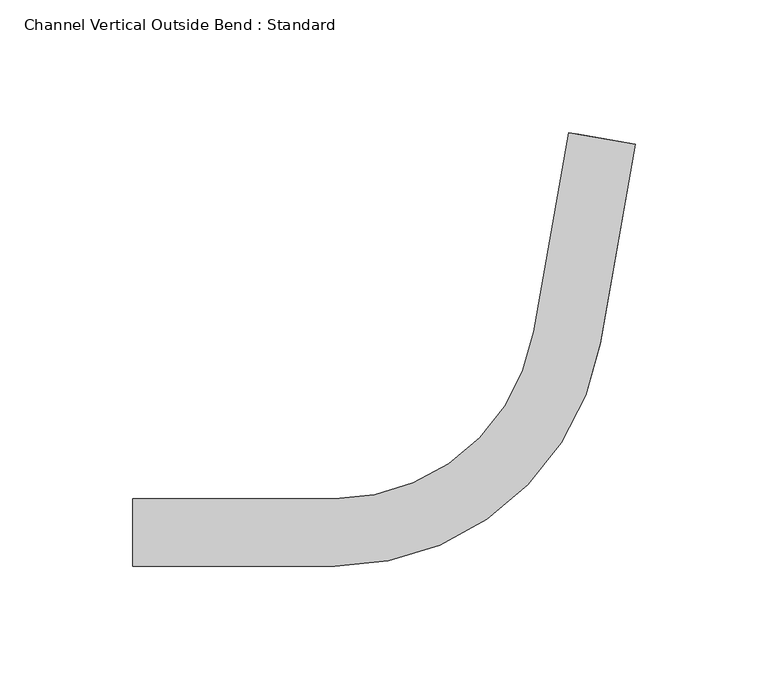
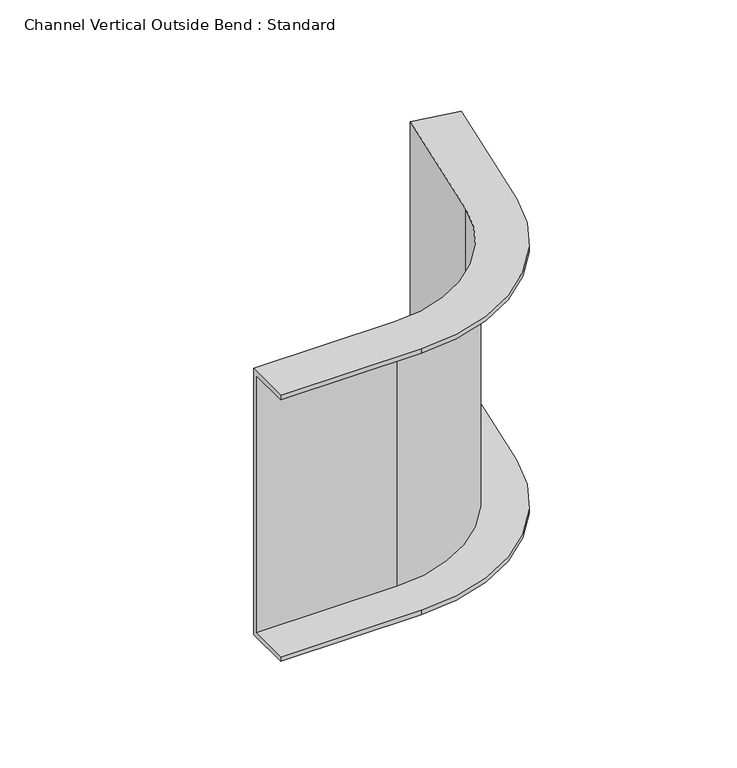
"""IFC4 building model written with IfcOpenShell, lengths in millimetres: cable carrier fitting geometry, Channel Vertical Outside Bend : Standard."""

from ifc_helpers import new_model, si_unit, frame, origin, place, context, project, spatial, polyline, circle_curve, source, transform, mapped, element, save
from ifc_brep_helpers import plane_surface, cylinder_surface, revolved_surface, advanced_brep


def channel_vertical_outside_bend_standard_291dc770(model_context):
    return source(origin(), model_context, "Body", "AdvancedBrep", [
        advanced_brep(
        [(-150.7959572, -12.7, 76.2), (-150.7959572, 12.7, 76.2), (-150.7959572, 12.7, -76.2), (-150.7959572, -12.7, -76.2), (-150.7959572, -12.7, -73.66), (-150.7959572, 10.16, -73.66), (-150.7959572, 10.16, 73.66), (-150.7959572, -12.7, 73.66), (38.6925016, 146.2996959, 76.2), (38.6925016, 146.2996959, 73.66), (16.1797964, 150.2692933, 73.66), (16.1797964, 150.2692933, -73.66), (38.6925016, 146.2996959, -73.66), (38.6925016, 146.2996959, -76.2), (13.6783847, 150.7103596, -76.2), (13.6783847, 150.7103596, 76.2), (-74.5959572, -12.7, 76.2), (25.4605105, 71.2573451, 76.2), (0.4463936, 75.6680089, 76.2), (-74.5959572, 12.7, 76.2), (-74.5959572, 12.7, -76.2), (0.4463936, 75.6680089, -76.2), (25.4605105, 71.2573451, -76.2), (-74.5959572, -12.7, -76.2), (-74.5959572, -12.7, -73.66), (25.4605105, 71.2573451, -73.66), (2.9478053, 75.2269425, -73.66), (-74.5959572, 10.16, -73.66), (-74.5959572, 10.16, 73.66), (2.9478053, 75.2269425, 73.66), (25.4605105, 71.2573451, 73.66), (-74.5959572, -12.7, 73.66)],
        [
            (0, 1),
            (1, 2),
            (2, 3),
            (3, 4),
            (4, 5),
            (5, 6),
            (6, 7),
            (7, 0),
            (8, 9),
            (9, 10),
            (10, 11),
            (11, 12),
            (12, 13),
            (13, 14),
            (14, 15),
            (15, 8),
            (0, 16),
            (16, 17, circle_curve(frame((-74.5959572, 88.9, 76.2), z_axis=(0.0, 0.0, 1.0), x_axis=(0.0, -1.0, 0.0)), 101.6)),
            (17, 8),
            (15, 18),
            (18, 19, circle_curve(frame((-74.5959572, 88.9, 76.2), z_axis=(0.0, 0.0, -1.0), x_axis=(0.0, -1.0, 0.0)), 76.2)),
            (19, 1),
            (19, 20),
            (20, 2),
            (20, 21, circle_curve(frame((-74.5959572, 88.9, -76.2), z_axis=(0.0, 0.0, 1.0), x_axis=(0.0, -1.0, 0.0)), 76.2)),
            (21, 14),
            (13, 22),
            (22, 23, circle_curve(frame((-74.5959572, 88.9, -76.2), z_axis=(0.0, 0.0, -1.0), x_axis=(0.0, -1.0, 0.0)), 101.6)),
            (23, 3),
            (23, 24),
            (24, 4),
            (24, 25, circle_curve(frame((-74.5959572, 88.9, -73.66), z_axis=(0.0, 0.0, 1.0), x_axis=(0.0, -1.0, 0.0)), 101.6)),
            (25, 12),
            (11, 26),
            (26, 27, circle_curve(frame((-74.5959572, 88.9, -73.66), z_axis=(0.0, 0.0, -1.0), x_axis=(0.0, -1.0, 0.0)), 78.74)),
            (27, 5),
            (27, 28),
            (28, 6),
            (28, 29, circle_curve(frame((-74.5959572, 88.9, 73.66), z_axis=(0.0, 0.0, 1.0), x_axis=(0.0, -1.0, 0.0)), 78.74)),
            (29, 10),
            (9, 30),
            (30, 31, circle_curve(frame((-74.5959572, 88.9, 73.66), z_axis=(0.0, 0.0, -1.0), x_axis=(0.0, -1.0, 0.0)), 101.6)),
            (31, 7),
            (31, 16),
            (18, 21),
            (22, 25),
            (26, 29),
            (30, 17),
        ],
        [
            plane_surface(frame((-150.7959572, 0.0, 0.0), z_axis=(-1.0, 0.0, 0.0), x_axis=(0.0, 0.0, 1.0))),
            plane_surface(frame((26.1854432, 148.5050278, 0.0), z_axis=(0.17364817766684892, 0.9848077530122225, 0.0), x_axis=(0.0, 0.0, 1.0))),
            plane_surface(frame((-150.7959572, -12.7, 76.2), z_axis=(0.0, 0.0, 1.0), x_axis=(1.0, 0.0, 0.0))),
            plane_surface(frame((-150.7959572, 12.7, 76.2), z_axis=(0.0, 1.0, 0.0), x_axis=(1.0, 0.0, 0.0))),
            plane_surface(frame((-150.7959572, 12.7, -76.2), z_axis=(0.0, 0.0, -1.0), x_axis=(1.0, 0.0, 0.0))),
            plane_surface(frame((-150.7959572, -12.7, -76.2), z_axis=(0.0, -1.0, 0.0), x_axis=(1.0, 0.0, 0.0))),
            plane_surface(frame((-150.7959572, -12.7, -73.66), z_axis=(0.0, 0.0, 1.0), x_axis=(1.0, 0.0, 0.0))),
            plane_surface(frame((-150.7959572, 10.16, -73.66), z_axis=(0.0, -1.0, 0.0), x_axis=(1.0, 0.0, 0.0))),
            plane_surface(frame((-150.7959572, 10.16, 73.66), z_axis=(0.0, 0.0, -1.0), x_axis=(1.0, 0.0, 0.0))),
            plane_surface(frame((-150.7959572, -12.7, 73.66), z_axis=(0.0, -1.0, 0.0), x_axis=(1.0, 0.0, 0.0))),
            revolved_surface(polyline([(-74.5959572, 12.700000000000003, 76.2), (-74.5959572, 12.700000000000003, -76.2)]), (-74.5959572, 88.9, 0.0), (0.0, 0.0, 1.0)),
            cylinder_surface(frame((-74.5959572, 88.9, 0.0), z_axis=(0.0, 0.0, 1.0), x_axis=(0.0, -1.0, 0.0)), 101.6),
            cylinder_surface(frame((-74.5959572, 88.9, 0.0), z_axis=(0.0, 0.0, 1.0), x_axis=(0.0, -1.0, 0.0)), 78.74),
            plane_surface(frame((0.4463936, 75.6680089, 76.2), z_axis=(-0.9848077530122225, 0.17364817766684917, 0.0), x_axis=(0.17364817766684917, 0.9848077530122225, 0.0))),
            plane_surface(frame((25.4605105, 71.2573451, -76.2), z_axis=(0.9848077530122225, -0.17364817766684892, 0.0), x_axis=(0.17364817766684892, 0.9848077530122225, 0.0))),
            plane_surface(frame((2.9478053, 75.2269425, -73.66), z_axis=(0.9848077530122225, -0.173648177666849, 0.0), x_axis=(0.173648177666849, 0.9848077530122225, 0.0))),
            plane_surface(frame((25.4605105, 71.2573451, 73.66), z_axis=(0.9848077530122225, -0.17364817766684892, 0.0), x_axis=(0.17364817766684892, 0.9848077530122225, 0.0))),
        ],
        [
            (0, [[1, 2, 3, 4, 5, 6, 7, 8]]),
            (1, [[9, 10, 11, 12, 13, 14, 15, 16]]),
            (2, [[-1, 17, 18, 19, -16, 20, 21, 22]]),
            (3, [[-2, -22, 23, 24]]),
            (4, [[-3, -24, 25, 26, -14, 27, 28, 29]]),
            (5, [[-4, -29, 30, 31]]),
            (6, [[-5, -31, 32, 33, -12, 34, 35, 36]]),
            (7, [[-6, -36, 37, 38]]),
            (8, [[-7, -38, 39, 40, -10, 41, 42, 43]]),
            (9, [[-8, -43, 44, -17]]),
            (10, [[-25, -23, -21, 45]]),
            (11, [[-32, -30, -28, 46]]),
            (12, [[-39, -37, -35, 47]]),
            (11, [[-18, -44, -42, 48]]),
            (13, [[-45, -20, -15, -26]]),
            (14, [[-46, -27, -13, -33]]),
            (15, [[-47, -34, -11, -40]]),
            (16, [[-48, -41, -9, -19]]),
        ],
    ),
    ])


if __name__ == "__main__":
    model = new_model("IFC4")
    model_context = context("Model", 3, world=origin())
    ifc_project = project(units=[si_unit("LENGTHUNIT", "METRE", prefix="MILLI")], contexts=[model_context])
    site = spatial("IfcSite", under=ifc_project)
    building = spatial("IfcBuilding", under=site)
    placement = place(None, origin())
    channel_vertical_outside_bend_standard_shape = channel_vertical_outside_bend_standard_291dc770(model_context)
    element("IfcCableCarrierFitting", 1, ObjectType="Channel Vertical Outside Bend : Standard", at=placement, inside=building, context=model_context, shape_type="MappedRepresentation", body=[
        mapped(channel_vertical_outside_bend_standard_shape, transform((0.0, 0.0, 0.0), x_axis=(1.0, 0.0, 0.0), y_axis=(0.0, 1.0, 0.0), z_axis=(0.0, 0.0, 1.0))),
    ])
    save(model, "model.ifc")
